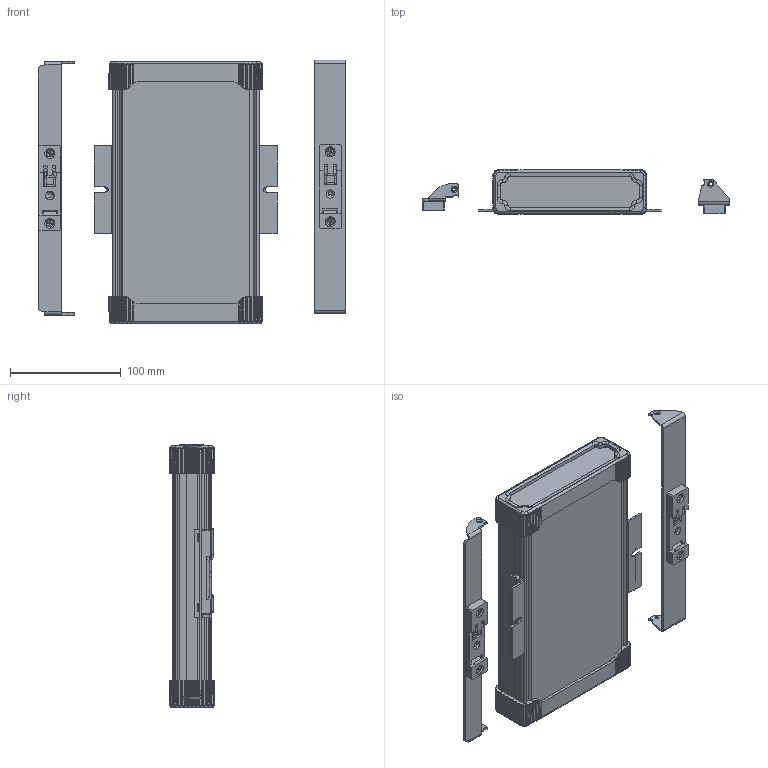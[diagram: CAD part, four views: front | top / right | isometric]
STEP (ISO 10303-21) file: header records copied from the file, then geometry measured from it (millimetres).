
FILE_DESCRIPTION (( 'STEP AP214' ), '1' );
FILE_NAME ('B5-220 Assembly.STEP', '2025-06-12T19:42:54', ( '' ), ( '' ), 'SwSTEP 2.0', 'SolidWorks 2025', '' );
FILE_SCHEMA (( 'AUTOMOTIVE_DESIGN' ));
Length unit declared in the file: millimetre
Products named in the file (18): Screw assembly; EC5_END_CAP_OPTIONAL_ACCESSORY_1; BRV220 assembly; SEALING WASHER; spring; Pusher; CR-FHMS 0.138-32x0.375x0.375-N_CR-FHMS 0.138-32x0.375x0.375-N; Torx Screw M3X0.5; BRV220; End Plate; Clamp mechanism; SK1 Seal; 6-32 PEM Nut; BRH220 assembly; BRH220; B5-220 Main Body; MF-80; B5-220 Assembly
Assembly tree (45 placements, depth 3):
  B5-220 Assembly
    B5-220 Main Body
    SK1 Seal  x2
    End Plate  x2
    Screw assembly  x16
      SEALING WASHER
      Torx Screw M3X0.5
    MF-80  x2
    EC5_END_CAP_OPTIONAL_ACCESSORY_1  x2
    BRH220 assembly
      Clamp mechanism
      BRH220
      Pusher
      spring
      6-32 PEM Nut  x2
      CR-FHMS 0.138-32x0.375x0.375-N_CR-FHMS 0.138-32x0.375x0.375-N  x2
    BRV220 assembly
      Clamp mechanism
      Pusher
      spring
      6-32 PEM Nut  x2
      CR-FHMS 0.138-32x0.375x0.375-N_CR-FHMS 0.138-32x0.375x0.375-N  x2
      BRV220
Bounding box: 277.38 x 41 x 237.9 mm (x, y, z)
Volume: 298857.8 mm3; surface area: 285227.4 mm2
Topology: 57 solids, 57 shells, 3035 faces, 7705 edges, 4846 vertices
Faces by surface type: cylinder 907, plane 882, bspline 738, cone 476, torus 32
Entity records: 67722 total; most frequent: CARTESIAN_POINT 27686, ORIENTED_EDGE 7332, DIRECTION 5509, EDGE_CURVE 3666, VERTEX_POINT 2315, AXIS2_PLACEMENT_3D 1881, LINE 1747, VECTOR 1747
